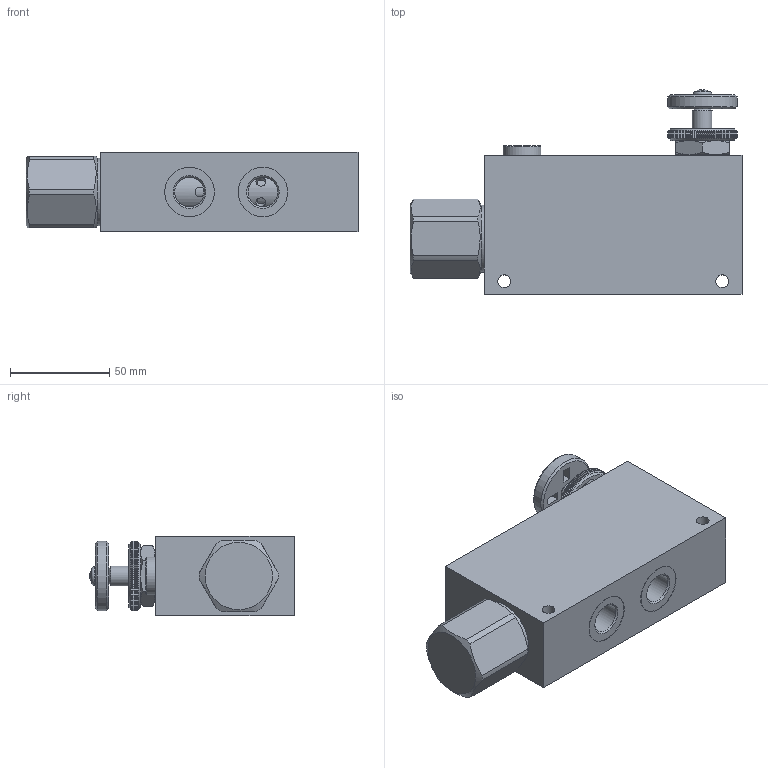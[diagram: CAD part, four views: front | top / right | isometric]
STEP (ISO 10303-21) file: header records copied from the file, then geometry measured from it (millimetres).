
FILE_DESCRIPTION(/* description */ (''),/* implementation_level */ '2;1');
FILE_NAME(/* name */ 'C:\Users\fabio.radici.LUEN\Desktop\X Laura\004-003-0X0.stp',/* time_stamp */ '2017-04-18T08:42:39+02:00',/* author */ ('Radici'),/* organization */ (''),/* preprocessor_version */ 'ST-DEVELOPER v16.1',/* originating_system */ 'Autodesk Inventor 2016',/* authorisation */ '');
FILE_SCHEMA (('CONFIG_CONTROL_DESIGN'));
Length unit declared in the file: millimetre
Products named in the file (1): 004-003-0X0_Shrinkwrap_1
Bounding box: 167.5 x 103.17 x 40 mm (x, y, z)
Volume: 371406.3 mm3; surface area: 72562 mm2
Topology: 2 solids, 2 shells, 499 faces, 1351 edges, 880 vertices
Faces by surface type: plane 318, cylinder 97, cone 68, torus 15, sphere 1
Full cylindrical faces by diameter (mm): 3 x2, 3.242 x1, 5 x10, 6.5 x2, 7 x4, 8 x5, 8.5 x1, 9.4 x1, 9.5 x1, 9.6 x1, 10 x2, 10.9 x2, 11 x1, 11.215 x1, 11.75 x1, 12.4 x1, 14.95 x3, 15 x1, 16 x2, 16.179 x1, 17.7 x1, 18.631 x1, 19 x2, 20 x1, 21 x3, 22 x4, 25 x5, 26 x2, 27 x1, 27.877 x1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
Entity records: 15728 total; most frequent: CARTESIAN_POINT 4910, ORIENTED_EDGE 2308, DIRECTION 1818, EDGE_CURVE 1154, VERTEX_POINT 814, AXIS2_PLACEMENT_3D 740, EDGE_LOOP 700, STYLED_ITEM 500
